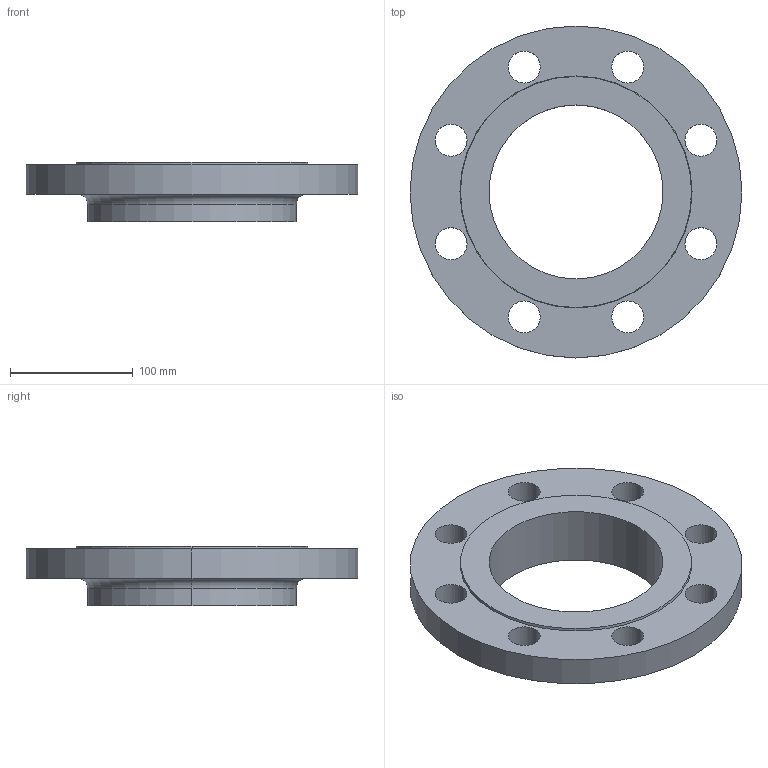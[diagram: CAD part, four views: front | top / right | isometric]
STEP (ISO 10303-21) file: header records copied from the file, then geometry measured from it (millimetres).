
FILE_DESCRIPTION (( 'STEP AP214' ), '1' );
FILE_NAME ('PN40 DN125 Type 12 - Type B Face.STEP', '2019-01-02T19:22:33', ( '' ), ( '' ), 'SwSTEP 2.0', 'SolidWorks 2019', '' );
FILE_SCHEMA (( 'AUTOMOTIVE_DESIGN' ));
Length unit declared in the file: millimetre
Products named in the file (1): PN40 DN125 Type 12 - Type B Face
Bounding box: 270 x 270 x 48 mm (x, y, z)
Volume: 1079945.5 mm3; surface area: 142880.6 mm2
Topology: 1 solids, 1 shells, 30 faces, 76 edges, 50 vertices
Faces by surface type: cylinder 22, plane 4, torus 2, cone 2
Entity records: 1006 total; most frequent: DIRECTION 190, CARTESIAN_POINT 157, ORIENTED_EDGE 152, AXIS2_PLACEMENT_3D 83, EDGE_CURVE 76, CIRCLE 52, EDGE_LOOP 50, VERTEX_POINT 50
